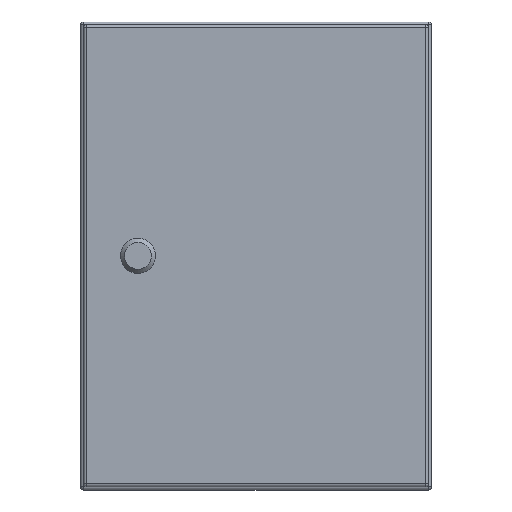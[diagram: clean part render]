
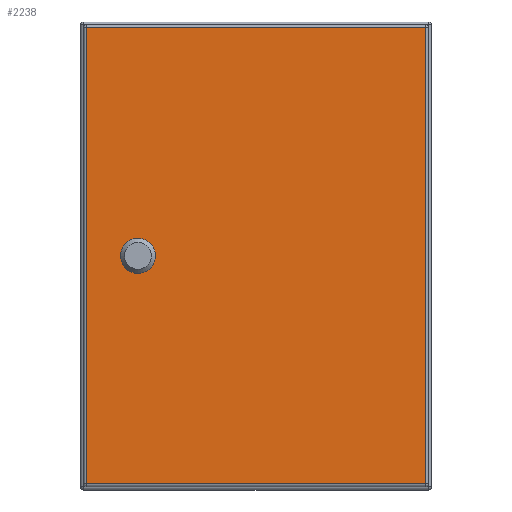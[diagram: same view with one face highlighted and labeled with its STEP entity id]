
A CAD part, top view. The second image highlights one B-rep face of the part: STEP entity #2238.
In plain terms, the highlighted planar face has unit normal (0, 0, 1) as drawn and (0, 0, -1) by its records, which use the part's own axes.
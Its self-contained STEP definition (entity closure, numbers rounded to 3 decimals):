
#53 = LINE ( 'NONE', #5914, #3802 ) ;
#71 = EDGE_LOOP ( 'NONE', ( #5104, #6449, #1035, #6570 ) ) ;
#134 = VERTEX_POINT ( 'NONE', #2864 ) ;
#140 = VECTOR ( 'NONE', #1881, 1000. ) ;
#167 = VERTEX_POINT ( 'NONE', #1277 ) ;
#209 = CARTESIAN_POINT ( 'NONE',  ( -145., 197.5, 0. ) ) ;
#216 = VERTEX_POINT ( 'NONE', #3057 ) ;
#272 = CARTESIAN_POINT ( 'NONE',  ( 145., -195., 0. ) ) ;
#311 = AXIS2_PLACEMENT_3D ( 'NONE', #4060, #1153, #5823 ) ;
#393 = LINE ( 'NONE', #7431, #5273 ) ;
#406 = DIRECTION ( 'NONE',  ( 0., 1., 0. ) ) ;
#414 = EDGE_CURVE ( 'NONE', #5376, #4534, #3767, .T. ) ;
#417 = CARTESIAN_POINT ( 'NONE',  ( 95.944, -10.05, 0. ) ) ;
#458 = PLANE ( 'NONE',  #3272 ) ;
#634 = DIRECTION ( 'NONE',  ( -1., 0., 0. ) ) ;
#667 = CARTESIAN_POINT ( 'NONE',  ( 101., 0., 0. ) ) ;
#784 = EDGE_CURVE ( 'NONE', #5933, #167, #4155, .T. ) ;
#786 = DIRECTION ( 'NONE',  ( -1., 0., 0. ) ) ;
#833 = ORIENTED_EDGE ( 'NONE', *, *, #5408, .F. ) ;
#1035 = ORIENTED_EDGE ( 'NONE', *, *, #6288, .T. ) ;
#1152 = ORIENTED_EDGE ( 'NONE', *, *, #784, .F. ) ;
#1153 = DIRECTION ( 'NONE',  ( 0., 0., -1. ) ) ;
#1277 = CARTESIAN_POINT ( 'NONE',  ( 90.95, -5.056, 0. ) ) ;
#1281 = VERTEX_POINT ( 'NONE', #6864 ) ;
#1428 = DIRECTION ( 'NONE',  ( 0., 0., -1. ) ) ;
#1881 = DIRECTION ( 'NONE',  ( 0., -1., 0. ) ) ;
#1950 = CARTESIAN_POINT ( 'NONE',  ( -145., -195., 0. ) ) ;
#1975 = CARTESIAN_POINT ( 'NONE',  ( 111.05, -5.056, 0. ) ) ;
#2088 = VERTEX_POINT ( 'NONE', #4468 ) ;
#2090 = VECTOR ( 'NONE', #406, 1000. ) ;
#2137 = CARTESIAN_POINT ( 'NONE',  ( 90.95, -5.056, 0. ) ) ;
#2166 = DIRECTION ( 'NONE',  ( 1., 0., 0. ) ) ;
#2195 = AXIS2_PLACEMENT_3D ( 'NONE', #667, #3017, #4224 ) ;
#2238 = ADVANCED_FACE ( 'NONE', ( #3466, #4008 ), #458, .T. ) ;
#2258 = CARTESIAN_POINT ( 'NONE',  ( 111.05, -5.056, 0. ) ) ;
#2564 = DIRECTION ( 'NONE',  ( 0., 1., 0. ) ) ;
#2765 = ORIENTED_EDGE ( 'NONE', *, *, #4132, .F. ) ;
#2864 = CARTESIAN_POINT ( 'NONE',  ( -145., 195., 0. ) ) ;
#2970 = LINE ( 'NONE', #5321, #140 ) ;
#3017 = DIRECTION ( 'NONE',  ( 0., 0., -1. ) ) ;
#3055 = EDGE_CURVE ( 'NONE', #4534, #5933, #3726, .T. ) ;
#3057 = CARTESIAN_POINT ( 'NONE',  ( 111.05, 5.056, 0. ) ) ;
#3059 = EDGE_CURVE ( 'NONE', #7026, #134, #5483, .T. ) ;
#3129 = DIRECTION ( 'NONE',  ( 1., 0., 0. ) ) ;
#3162 = DIRECTION ( 'NONE',  ( -1., 0., 0. ) ) ;
#3183 = VECTOR ( 'NONE', #4334, 1000. ) ;
#3212 = CARTESIAN_POINT ( 'NONE',  ( 101., 0., 0. ) ) ;
#3269 = CARTESIAN_POINT ( 'NONE',  ( 101., 0., 0. ) ) ;
#3272 = AXIS2_PLACEMENT_3D ( 'NONE', #6390, #5732, #5285 ) ;
#3360 = ORIENTED_EDGE ( 'NONE', *, *, #4473, .F. ) ;
#3461 = EDGE_CURVE ( 'NONE', #2088, #4880, #6490, .T. ) ;
#3466 = FACE_BOUND ( 'NONE', #5269, .T. ) ;
#3558 = CIRCLE ( 'NONE', #2195, 11.25 ) ;
#3638 = LINE ( 'NONE', #1975, #3183 ) ;
#3674 = CARTESIAN_POINT ( 'NONE',  ( 95.944, 10.05, 0. ) ) ;
#3704 = VERTEX_POINT ( 'NONE', #6207 ) ;
#3726 = LINE ( 'NONE', #6065, #6354 ) ;
#3767 = CIRCLE ( 'NONE', #311, 11.25 ) ;
#3781 = ORIENTED_EDGE ( 'NONE', *, *, #3055, .F. ) ;
#3802 = VECTOR ( 'NONE', #634, 1000. ) ;
#4008 = FACE_OUTER_BOUND ( 'NONE', #71, .T. ) ;
#4060 = CARTESIAN_POINT ( 'NONE',  ( 101., 0., 0. ) ) ;
#4132 = EDGE_CURVE ( 'NONE', #4880, #1281, #393, .T. ) ;
#4155 = CIRCLE ( 'NONE', #5986, 11.25 ) ;
#4224 = DIRECTION ( 'NONE',  ( 1., 0., 0. ) ) ;
#4233 = LINE ( 'NONE', #4842, #4687 ) ;
#4276 = EDGE_CURVE ( 'NONE', #5875, #7026, #53, .T. ) ;
#4334 = DIRECTION ( 'NONE',  ( 0., -1., 0. ) ) ;
#4367 = CARTESIAN_POINT ( 'NONE',  ( 106.056, -10.05, 0. ) ) ;
#4377 = EDGE_CURVE ( 'NONE', #216, #5376, #3638, .T. ) ;
#4468 = CARTESIAN_POINT ( 'NONE',  ( 90.95, 5.056, 0. ) ) ;
#4473 = EDGE_CURVE ( 'NONE', #1281, #216, #3558, .T. ) ;
#4534 = VERTEX_POINT ( 'NONE', #4367 ) ;
#4687 = VECTOR ( 'NONE', #5380, 1000. ) ;
#4776 = AXIS2_PLACEMENT_3D ( 'NONE', #3212, #1428, #3129 ) ;
#4842 = CARTESIAN_POINT ( 'NONE',  ( 147.5, 195., 0. ) ) ;
#4880 = VERTEX_POINT ( 'NONE', #3674 ) ;
#5008 = DIRECTION ( 'NONE',  ( 0., 0., -1. ) ) ;
#5104 = ORIENTED_EDGE ( 'NONE', *, *, #3059, .T. ) ;
#5269 = EDGE_LOOP ( 'NONE', ( #1152, #3781, #6696, #7530, #3360, #2765, #6547, #833 ) ) ;
#5273 = VECTOR ( 'NONE', #2166, 1000. ) ;
#5285 = DIRECTION ( 'NONE',  ( -1., 0., 0. ) ) ;
#5321 = CARTESIAN_POINT ( 'NONE',  ( 145., -197.5, 0. ) ) ;
#5376 = VERTEX_POINT ( 'NONE', #2258 ) ;
#5380 = DIRECTION ( 'NONE',  ( 1., 0., 0. ) ) ;
#5408 = EDGE_CURVE ( 'NONE', #167, #2088, #5689, .T. ) ;
#5483 = LINE ( 'NONE', #209, #5741 ) ;
#5524 = EDGE_CURVE ( 'NONE', #134, #3704, #4233, .T. ) ;
#5689 = LINE ( 'NONE', #2137, #2090 ) ;
#5732 = DIRECTION ( 'NONE',  ( 0., 0., -1. ) ) ;
#5741 = VECTOR ( 'NONE', #2564, 1000. ) ;
#5823 = DIRECTION ( 'NONE',  ( -1., 0., 0. ) ) ;
#5875 = VERTEX_POINT ( 'NONE', #272 ) ;
#5914 = CARTESIAN_POINT ( 'NONE',  ( -147.5, -195., 0. ) ) ;
#5933 = VERTEX_POINT ( 'NONE', #417 ) ;
#5986 = AXIS2_PLACEMENT_3D ( 'NONE', #3269, #5008, #3162 ) ;
#6065 = CARTESIAN_POINT ( 'NONE',  ( 106.056, -10.05, 0. ) ) ;
#6207 = CARTESIAN_POINT ( 'NONE',  ( 145., 195., 0. ) ) ;
#6288 = EDGE_CURVE ( 'NONE', #3704, #5875, #2970, .T. ) ;
#6354 = VECTOR ( 'NONE', #786, 1000. ) ;
#6390 = CARTESIAN_POINT ( 'NONE',  ( 147.5, 197.5, 0. ) ) ;
#6449 = ORIENTED_EDGE ( 'NONE', *, *, #5524, .T. ) ;
#6490 = CIRCLE ( 'NONE', #4776, 11.25 ) ;
#6547 = ORIENTED_EDGE ( 'NONE', *, *, #3461, .F. ) ;
#6570 = ORIENTED_EDGE ( 'NONE', *, *, #4276, .T. ) ;
#6696 = ORIENTED_EDGE ( 'NONE', *, *, #414, .F. ) ;
#6864 = CARTESIAN_POINT ( 'NONE',  ( 106.056, 10.05, 0. ) ) ;
#7026 = VERTEX_POINT ( 'NONE', #1950 ) ;
#7431 = CARTESIAN_POINT ( 'NONE',  ( 106.056, 10.05, 0. ) ) ;
#7530 = ORIENTED_EDGE ( 'NONE', *, *, #4377, .F. ) ;
